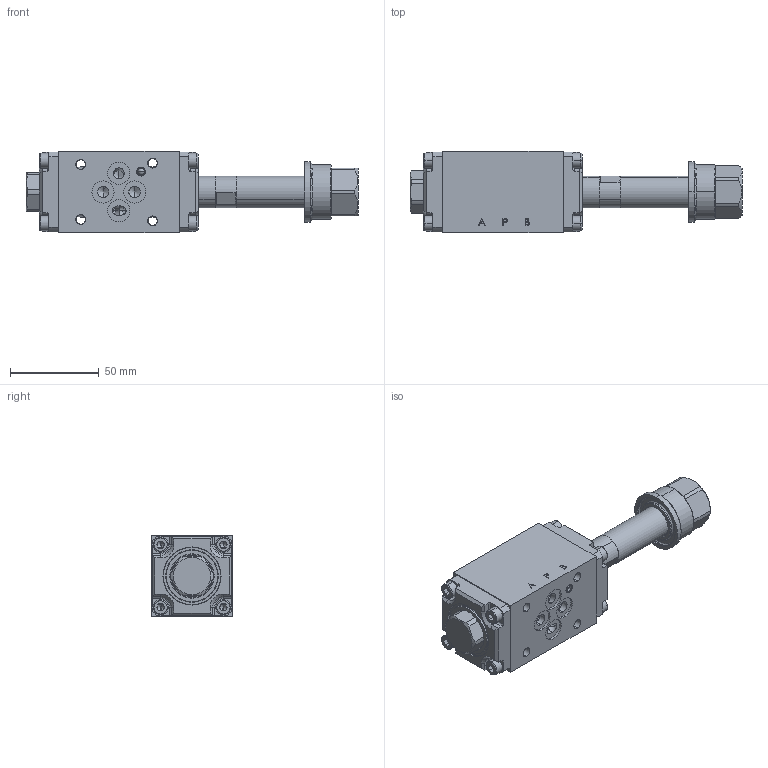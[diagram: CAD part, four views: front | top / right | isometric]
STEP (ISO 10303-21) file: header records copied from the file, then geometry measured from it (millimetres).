
FILE_DESCRIPTION (( 'STEP AP214' ), '1' );
FILE_NAME ('WDBFA06-K9-4_2-Bside.STEP', '2020-02-24T13:21:58', ( '' ), ( '' ), 'SwSTEP 2.0', 'SolidWorks 2018', '' );
FILE_SCHEMA (( 'AUTOMOTIVE_DESIGN' ));
Length unit declared in the file: millimetre
Products named in the file (1): WDBFA06-K9-4_2-Bside
Bounding box: 187.15 x 46 x 46 mm (x, y, z)
Volume: 212499.8 mm3; surface area: 40664.3 mm2
Topology: 1 solids, 14 shells, 743 faces, 1745 edges, 1067 vertices
Faces by surface type: plane 310, cylinder 216, cone 126, torus 72, bspline 15, sphere 4
Entity records: 30906 total; most frequent: CARTESIAN_POINT 5647, DIRECTION 3695, ORIENTED_EDGE 3418, EDGE_CURVE 1709, AXIS2_PLACEMENT_3D 1429, VERTEX_POINT 1067, EDGE_LOOP 840, LINE 837
